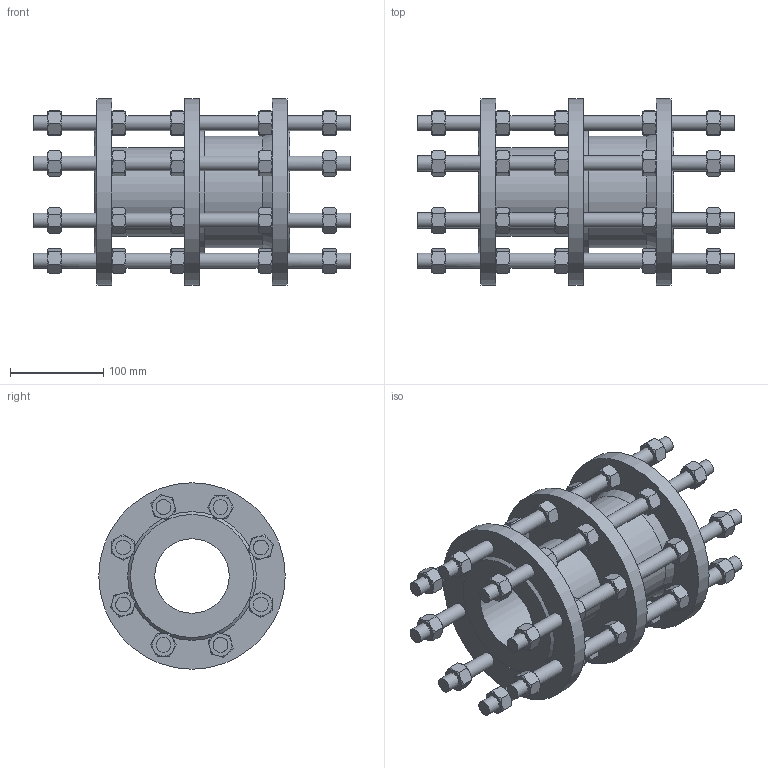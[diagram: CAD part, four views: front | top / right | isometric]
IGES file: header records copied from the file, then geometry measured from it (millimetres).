
Start section: SolidWorks IGES file using analytic representation for surfaces
Global section: file name: X:\AR\CV\873\873-0080-00-741000\873008000741000.IGS; native system: SolidWorks 2020; preprocessor: SolidWorks 2020; author: m.lucatello; date: 211105.090922; units: millimetre
Bounding box: 340 x 200 x 200 mm (x, y, z)
Surface area: 488660.6 mm2 (no closed solid volume)
Topology: 0 solids, 0 shells, 907 faces, 3798 edges, 3716 vertices
Faces by surface type: revolution 562, bspline 345
